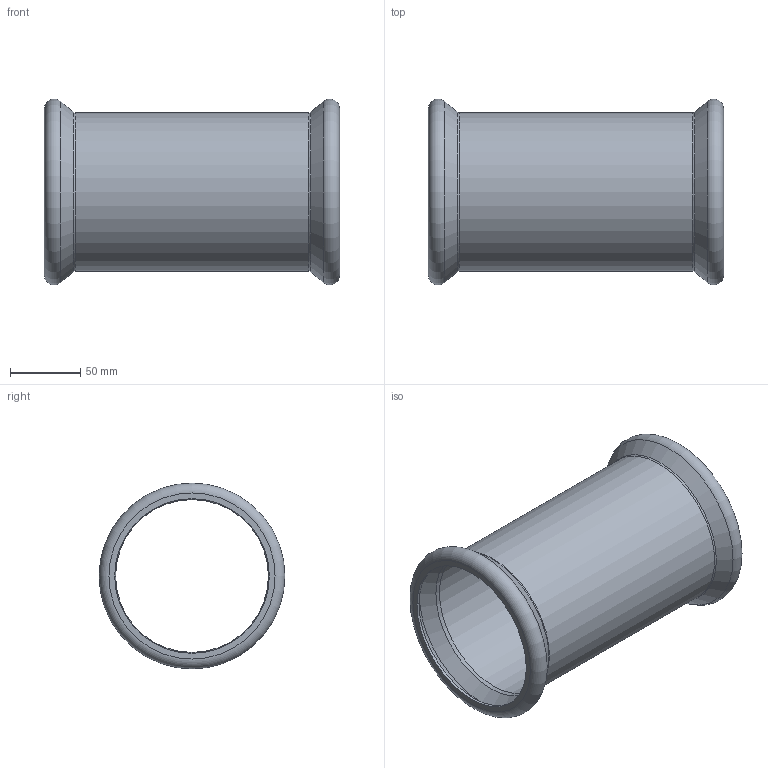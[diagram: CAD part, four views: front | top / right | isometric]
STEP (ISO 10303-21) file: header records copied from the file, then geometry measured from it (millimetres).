
FILE_DESCRIPTION((''),'2;1');
FILE_NAME('G:\Nirosan-Schmiedefeld\Technics\CAD\Bauteile VA\108\69270S108(0).stp','2009-05-08T09:58:59',('herberg'),(''),'Autodesk Inventor 2009','Autodesk Inventor 2009','');
FILE_SCHEMA(('AUTOMOTIVE_DESIGN { 1 0 10303 214 1 1 1 1 }'));
Length unit declared in the file: millimetre
Products named in the file (1): 69270S108(0)
Bounding box: 210 x 132.2 x 132.2 mm (x, y, z)
Volume: 164029.4 mm3; surface area: 165421.3 mm2
Topology: 1 solids, 1 shells, 20 faces, 36 edges, 20 vertices
Faces by surface type: plane 4, torus 4, cone 4, bspline 4, cylinder 4
Full cylindrical faces by diameter (mm): 108.7 x1, 110 x2, 112.7 x1
Entity records: 594 total; most frequent: CARTESIAN_POINT 237, DIRECTION 74, ORIENTED_EDGE 40, EDGE_LOOP 40, AXIS2_PLACEMENT_3D 37, VERTEX_POINT 20, CIRCLE 20, EDGE_CURVE 20
